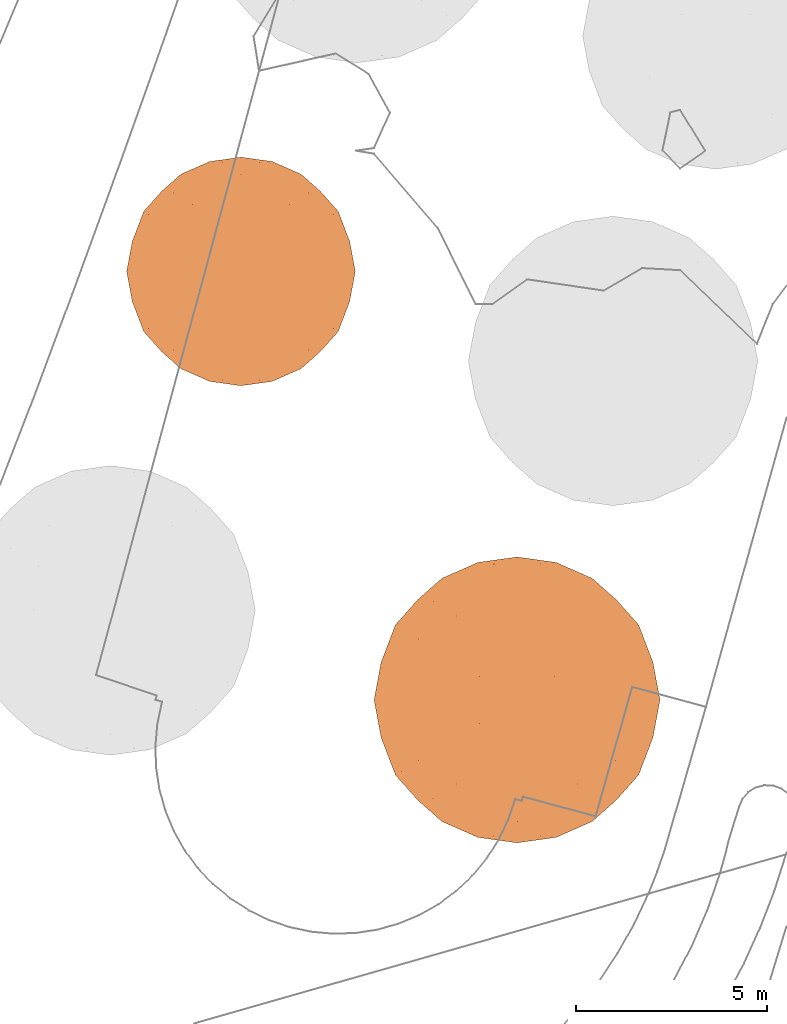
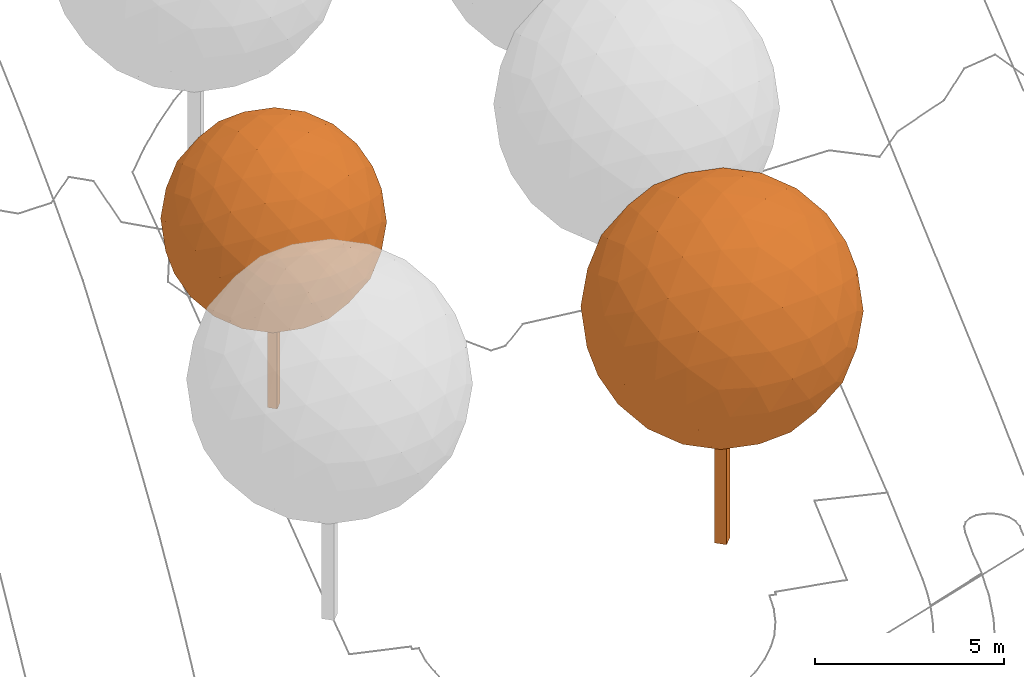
# Not in any storey, part 260 of 494: 2 proxies.
"""IFC2X3 model written with IfcOpenShell, lengths in metres."""

from ifc_helpers import new_model, si_unit, frame, origin_with_axes, place, context, subcontext, project, faceted_brep, element, save


model = new_model("IFC2X3")

# Units and contexts
model_context = context("Model", 3, precision=1e-05, world=origin_with_axes())
body_context = subcontext(model_context, "Body", "Model", "MODEL_VIEW")
ifc_project = project(units=[si_unit("AREAUNIT", "SQUARE_METRE"), si_unit("LENGTHUNIT", "METRE")], contexts=[model_context])

# Proxies
proxy_1_placement = place(None, frame((20.2007320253, 338.0227328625, 538.8693610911), z_axis=(0.0, 0.0, 1.0), x_axis=(1.0, 0.0, 0.0)))
element("IfcBuildingElementProxy", 1, at=proxy_1_placement, Name="Tree TR1 CD59", ObjectType="NOTDEFINED", context=body_context, shape_type="Brep", body=[
    faceted_brep([(0.0, 0.1900657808, 0.0), (0.1900657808, 0.0, 0.0), (0.0, -0.1900657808, 0.0), (-0.1900657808, 0.0, 0.0), (0.0, -0.1900657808, 5.971092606), (0.1900657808, 0.0, 5.971092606), (0.0, 0.1900657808, 5.971092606), (-0.1900657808, 0.0, 5.971092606)], [[[0, 1, 2]], [[2, 3, 0]], [[4, 5, 6]], [[6, 7, 4]], [[4, 7, 2]], [[2, 7, 3]], [[7, 6, 3]], [[3, 6, 0]], [[5, 4, 1]], [[1, 4, 2]], [[6, 5, 0]], [[0, 5, 1]]]),
    faceted_brep([(-1.5695945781, 2.539657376, 5.971092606), (-2.0713137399, 2.0959921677, 6.4506371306), (-1.2953943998, 2.5755366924, 6.747011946), (-2.4153576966, 1.4927731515, 6.8936771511), (-1.7548600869, 2.0546259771, 7.240921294), (-0.9225845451, 2.4153576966, 7.4638657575), (-2.5755366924, 0.7759193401, 7.2664870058), (-2.0546259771, 1.269828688, 7.7259526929), (-2.539657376, 0.0, 7.5406871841), (-2.0959921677, 0.4795445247, 8.0424063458), (-1.4927731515, 0.9225845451, 8.3864503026), (-1.269828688, 1.7548600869, 8.025718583), (-0.4795445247, 2.0713137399, 8.0670847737), (-0.7759193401, 1.2953943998, 8.5466292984), (0.0, 1.5695945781, 8.510749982), (-0.8158498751, 2.8719115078, 5.971092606), (-0.4850313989, 2.8394232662, 6.755889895), (0.0, 2.985546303, 5.971092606), (0.0, 2.539657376, 7.5406871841), (0.4795445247, 2.0713137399, 8.0670847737), (0.9225845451, 2.4153576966, 7.4638657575), (0.4850313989, 2.8394232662, 6.755889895), (0.8158498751, 2.8719115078, 5.971092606), (1.2953943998, 2.5755366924, 6.747011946), (1.5695945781, 2.539657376, 5.971092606), (-1.2953943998, 2.5755366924, 5.1951732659), (-0.4850313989, 2.8394232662, 5.1862953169), (-0.9225845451, 2.4153576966, 4.4783194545), (0.4850313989, 2.8394232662, 5.1862953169), (1.2953943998, 2.5755366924, 5.1951732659), (0.9225845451, 2.4153576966, 4.4783194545), (0.0, 2.539657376, 4.4014980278), (-0.4795445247, 2.0713137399, 3.8751004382), (0.4795445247, 2.0713137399, 3.8751004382), (0.0, 1.5695945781, 3.43143523), (-2.0713137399, 2.0959921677, 5.4915480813), (-1.7548600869, 2.0546259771, 4.701263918), (-2.4153576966, 1.4927731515, 5.0485080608), (-1.269828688, 1.7548600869, 3.9164666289), (-0.7759193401, 1.2953943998, 3.3955559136), (-1.4927731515, 0.9225845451, 3.5557349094), (-2.0546259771, 1.269828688, 4.216232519), (-2.5755366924, 0.7759193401, 4.6756982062), (-2.0959921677, 0.4795445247, 3.8997788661), (-2.539657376, 0.0, 4.4014980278), (-2.539657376, 1.5695945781, 5.971092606), (-2.8394232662, 0.7847972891, 5.486061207), (-2.8719115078, 0.0, 5.1552427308), (-2.985546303, 0.0, 5.971092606), (-2.8394232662, 0.7847972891, 6.4561240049), (-2.8719115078, 0.0, 6.7869424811), (2.0713137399, 2.0959921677, 6.4506371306), (1.7548600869, 2.0546259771, 7.240921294), (2.4153576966, 1.4927731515, 6.8936771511), (1.269828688, 1.7548600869, 8.025718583), (0.7759193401, 1.2953943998, 8.5466292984), (1.4927731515, 0.9225845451, 8.3864503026), (2.0546259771, 1.269828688, 7.7259526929), (2.5755366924, 0.7759193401, 7.2664870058), (2.0959921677, 0.4795445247, 8.0424063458), (2.539657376, 0.0, 7.5406871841), (0.0, 0.8158498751, 8.8430041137), (-0.7847972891, 0.4850313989, 8.8105158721), (0.0, 0.0, 8.9566389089), (-1.5695945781, 0.0, 8.510749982), (-2.0959921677, -0.4795445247, 8.0424063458), (-1.4927731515, -0.9225845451, 8.3864503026), (-0.7847972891, -0.4850313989, 8.8105158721), (0.0, -0.8158498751, 8.8430041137), (-0.7759193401, -1.2953943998, 8.5466292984), (0.0, -1.5695945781, 8.510749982), (-2.5755366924, -0.7759193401, 7.2664870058), (-2.8394232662, -0.7847972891, 6.4561240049), (-2.4153576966, -1.4927731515, 6.8936771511), (-2.8394232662, -0.7847972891, 5.486061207), (-2.5755366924, -0.7759193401, 4.6756982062), (-2.4153576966, -1.4927731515, 5.0485080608), (-2.539657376, -1.5695945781, 5.971092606), (-2.0713137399, -2.0959921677, 6.4506371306), (-2.0713137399, -2.0959921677, 5.4915480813), (-1.5695945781, -2.539657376, 5.971092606), (-2.0959921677, -0.4795445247, 3.8997788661), (-1.5695945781, 0.0, 3.43143523), (-1.4927731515, -0.9225845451, 3.5557349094), (-0.7847972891, 0.4850313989, 3.1316693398), (0.0, 0.8158498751, 3.0991810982), (0.0, 0.0, 2.985546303), (-0.7847972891, -0.4850313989, 3.1316693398), (-0.7759193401, -1.2953943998, 3.3955559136), (0.0, -0.8158498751, 3.0991810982), (0.0, -1.5695945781, 3.43143523), (0.7759193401, 1.2953943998, 3.3955559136), (1.269828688, 1.7548600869, 3.9164666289), (1.4927731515, 0.9225845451, 3.5557349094), (1.7548600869, 2.0546259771, 4.701263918), (2.0713137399, 2.0959921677, 5.4915480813), (2.4153576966, 1.4927731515, 5.0485080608), (2.0546259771, 1.269828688, 4.216232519), (2.0959921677, 0.4795445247, 3.8997788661), (2.5755366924, 0.7759193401, 4.6756982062), (2.539657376, 0.0, 4.4014980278), (1.5695945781, -2.539657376, 5.971092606), (2.0713137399, -2.0959921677, 6.4506371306), (1.2953943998, -2.5755366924, 6.747011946), (2.4153576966, -1.4927731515, 6.8936771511), (1.7548600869, -2.0546259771, 7.240921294), (0.9225845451, -2.4153576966, 7.4638657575), (2.5755366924, -0.7759193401, 7.2664870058), (2.0546259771, -1.269828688, 7.7259526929), (2.0959921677, -0.4795445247, 8.0424063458), (1.4927731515, -0.9225845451, 8.3864503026), (1.269828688, -1.7548600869, 8.025718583), (0.4795445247, -2.0713137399, 8.0670847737), (0.7759193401, -1.2953943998, 8.5466292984), (0.8158498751, -2.8719115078, 5.971092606), (0.4850313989, -2.8394232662, 6.755889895), (0.0, -2.985546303, 5.971092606), (0.0, -2.539657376, 7.5406871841), (-0.4795445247, -2.0713137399, 8.0670847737), (-0.9225845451, -2.4153576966, 7.4638657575), (-0.4850313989, -2.8394232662, 6.755889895), (-0.8158498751, -2.8719115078, 5.971092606), (-1.2953943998, -2.5755366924, 6.747011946), (1.2953943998, -2.5755366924, 5.1951732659), (0.4850313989, -2.8394232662, 5.1862953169), (0.9225845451, -2.4153576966, 4.4783194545), (-0.4850313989, -2.8394232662, 5.1862953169), (-1.2953943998, -2.5755366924, 5.1951732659), (-0.9225845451, -2.4153576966, 4.4783194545), (0.0, -2.539657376, 4.4014980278), (0.4795445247, -2.0713137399, 3.8751004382), (-0.4795445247, -2.0713137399, 3.8751004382), (2.0713137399, -2.0959921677, 5.4915480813), (1.7548600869, -2.0546259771, 4.701263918), (2.4153576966, -1.4927731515, 5.0485080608), (1.269828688, -1.7548600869, 3.9164666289), (0.7759193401, -1.2953943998, 3.3955559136), (1.4927731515, -0.9225845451, 3.5557349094), (2.0546259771, -1.269828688, 4.216232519), (2.5755366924, -0.7759193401, 4.6756982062), (2.0959921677, -0.4795445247, 3.8997788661), (2.539657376, -1.5695945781, 5.971092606), (2.8394232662, -0.7847972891, 5.486061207), (2.8719115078, 0.0, 5.1552427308), (2.985546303, 0.0, 5.971092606), (2.8394232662, -0.7847972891, 6.4561240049), (2.8719115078, 0.0, 6.7869424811), (0.7847972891, -0.4850313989, 8.8105158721), (1.5695945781, 0.0, 8.510749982), (0.7847972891, 0.4850313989, 8.8105158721), (-1.7548600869, -2.0546259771, 7.240921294), (-1.269828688, -1.7548600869, 8.025718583), (-2.0546259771, -1.269828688, 7.7259526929), (-1.269828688, -1.7548600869, 3.9164666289), (-1.7548600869, -2.0546259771, 4.701263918), (-2.0546259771, -1.269828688, 4.216232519), (1.5695945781, 0.0, 3.43143523), (0.7847972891, -0.4850313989, 3.1316693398), (0.7847972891, 0.4850313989, 3.1316693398), (2.8394232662, 0.7847972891, 6.4561240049), (2.8394232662, 0.7847972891, 5.486061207), (2.539657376, 1.5695945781, 5.971092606)], [[[0, 1, 2]], [[1, 3, 4]], [[2, 4, 5]], [[1, 4, 2]], [[3, 6, 7]], [[6, 8, 9]], [[7, 9, 10]], [[6, 9, 7]], [[5, 11, 12]], [[11, 10, 13]], [[12, 13, 14]], [[11, 13, 12]], [[3, 7, 4]], [[7, 10, 11]], [[4, 11, 5]], [[7, 11, 4]], [[0, 2, 15]], [[2, 5, 16]], [[15, 16, 17]], [[2, 16, 15]], [[5, 12, 18]], [[12, 14, 19]], [[18, 19, 20]], [[12, 19, 18]], [[17, 21, 22]], [[21, 20, 23]], [[22, 23, 24]], [[21, 23, 22]], [[5, 18, 16]], [[18, 20, 21]], [[16, 21, 17]], [[18, 21, 16]], [[0, 15, 25]], [[15, 17, 26]], [[25, 26, 27]], [[15, 26, 25]], [[17, 22, 28]], [[22, 24, 29]], [[28, 29, 30]], [[22, 29, 28]], [[27, 31, 32]], [[31, 30, 33]], [[32, 33, 34]], [[31, 33, 32]], [[17, 28, 26]], [[28, 30, 31]], [[26, 31, 27]], [[28, 31, 26]], [[0, 25, 35]], [[25, 27, 36]], [[35, 36, 37]], [[25, 36, 35]], [[27, 32, 38]], [[32, 34, 39]], [[38, 39, 40]], [[32, 39, 38]], [[37, 41, 42]], [[41, 40, 43]], [[42, 43, 44]], [[41, 43, 42]], [[27, 38, 36]], [[38, 40, 41]], [[36, 41, 37]], [[38, 41, 36]], [[0, 35, 1]], [[35, 37, 45]], [[1, 45, 3]], [[35, 45, 1]], [[37, 42, 46]], [[42, 44, 47]], [[46, 47, 48]], [[42, 47, 46]], [[3, 49, 6]], [[49, 48, 50]], [[6, 50, 8]], [[49, 50, 6]], [[37, 46, 45]], [[46, 48, 49]], [[45, 49, 3]], [[46, 49, 45]], [[24, 23, 51]], [[23, 20, 52]], [[51, 52, 53]], [[23, 52, 51]], [[20, 19, 54]], [[19, 14, 55]], [[54, 55, 56]], [[19, 55, 54]], [[53, 57, 58]], [[57, 56, 59]], [[58, 59, 60]], [[57, 59, 58]], [[20, 54, 52]], [[54, 56, 57]], [[52, 57, 53]], [[54, 57, 52]], [[14, 13, 61]], [[13, 10, 62]], [[61, 62, 63]], [[13, 62, 61]], [[10, 9, 64]], [[9, 8, 65]], [[64, 65, 66]], [[9, 65, 64]], [[63, 67, 68]], [[67, 66, 69]], [[68, 69, 70]], [[67, 69, 68]], [[10, 64, 62]], [[64, 66, 67]], [[62, 67, 63]], [[64, 67, 62]], [[8, 50, 71]], [[50, 48, 72]], [[71, 72, 73]], [[50, 72, 71]], [[48, 47, 74]], [[47, 44, 75]], [[74, 75, 76]], [[47, 75, 74]], [[73, 77, 78]], [[77, 76, 79]], [[78, 79, 80]], [[77, 79, 78]], [[48, 74, 72]], [[74, 76, 77]], [[72, 77, 73]], [[74, 77, 72]], [[44, 43, 81]], [[43, 40, 82]], [[81, 82, 83]], [[43, 82, 81]], [[40, 39, 84]], [[39, 34, 85]], [[84, 85, 86]], [[39, 85, 84]], [[83, 87, 88]], [[87, 86, 89]], [[88, 89, 90]], [[87, 89, 88]], [[40, 84, 82]], [[84, 86, 87]], [[82, 87, 83]], [[84, 87, 82]], [[34, 33, 91]], [[33, 30, 92]], [[91, 92, 93]], [[33, 92, 91]], [[30, 29, 94]], [[29, 24, 95]], [[94, 95, 96]], [[29, 95, 94]], [[93, 97, 98]], [[97, 96, 99]], [[98, 99, 100]], [[97, 99, 98]], [[30, 94, 92]], [[94, 96, 97]], [[92, 97, 93]], [[94, 97, 92]], [[101, 102, 103]], [[102, 104, 105]], [[103, 105, 106]], [[102, 105, 103]], [[104, 107, 108]], [[107, 60, 109]], [[108, 109, 110]], [[107, 109, 108]], [[106, 111, 112]], [[111, 110, 113]], [[112, 113, 70]], [[111, 113, 112]], [[104, 108, 105]], [[108, 110, 111]], [[105, 111, 106]], [[108, 111, 105]], [[101, 103, 114]], [[103, 106, 115]], [[114, 115, 116]], [[103, 115, 114]], [[106, 112, 117]], [[112, 70, 118]], [[117, 118, 119]], [[112, 118, 117]], [[116, 120, 121]], [[120, 119, 122]], [[121, 122, 80]], [[120, 122, 121]], [[106, 117, 115]], [[117, 119, 120]], [[115, 120, 116]], [[117, 120, 115]], [[101, 114, 123]], [[114, 116, 124]], [[123, 124, 125]], [[114, 124, 123]], [[116, 121, 126]], [[121, 80, 127]], [[126, 127, 128]], [[121, 127, 126]], [[125, 129, 130]], [[129, 128, 131]], [[130, 131, 90]], [[129, 131, 130]], [[116, 126, 124]], [[126, 128, 129]], [[124, 129, 125]], [[126, 129, 124]], [[101, 123, 132]], [[123, 125, 133]], [[132, 133, 134]], [[123, 133, 132]], [[125, 130, 135]], [[130, 90, 136]], [[135, 136, 137]], [[130, 136, 135]], [[134, 138, 139]], [[138, 137, 140]], [[139, 140, 100]], [[138, 140, 139]], [[125, 135, 133]], [[135, 137, 138]], [[133, 138, 134]], [[135, 138, 133]], [[101, 132, 102]], [[132, 134, 141]], [[102, 141, 104]], [[132, 141, 102]], [[134, 139, 142]], [[139, 100, 143]], [[142, 143, 144]], [[139, 143, 142]], [[104, 145, 107]], [[145, 144, 146]], [[107, 146, 60]], [[145, 146, 107]], [[134, 142, 141]], [[142, 144, 145]], [[141, 145, 104]], [[142, 145, 141]], [[70, 113, 68]], [[113, 110, 147]], [[68, 147, 63]], [[113, 147, 68]], [[110, 109, 148]], [[109, 60, 59]], [[148, 59, 56]], [[109, 59, 148]], [[63, 149, 61]], [[149, 56, 55]], [[61, 55, 14]], [[149, 55, 61]], [[110, 148, 147]], [[148, 56, 149]], [[147, 149, 63]], [[148, 149, 147]], [[80, 122, 78]], [[122, 119, 150]], [[78, 150, 73]], [[122, 150, 78]], [[119, 118, 151]], [[118, 70, 69]], [[151, 69, 66]], [[118, 69, 151]], [[73, 152, 71]], [[152, 66, 65]], [[71, 65, 8]], [[152, 65, 71]], [[119, 151, 150]], [[151, 66, 152]], [[150, 152, 73]], [[151, 152, 150]], [[90, 131, 88]], [[131, 128, 153]], [[88, 153, 83]], [[131, 153, 88]], [[128, 127, 154]], [[127, 80, 79]], [[154, 79, 76]], [[127, 79, 154]], [[83, 155, 81]], [[155, 76, 75]], [[81, 75, 44]], [[155, 75, 81]], [[128, 154, 153]], [[154, 76, 155]], [[153, 155, 83]], [[154, 155, 153]], [[100, 140, 98]], [[140, 137, 156]], [[98, 156, 93]], [[140, 156, 98]], [[137, 136, 157]], [[136, 90, 89]], [[157, 89, 86]], [[136, 89, 157]], [[93, 158, 91]], [[158, 86, 85]], [[91, 85, 34]], [[158, 85, 91]], [[137, 157, 156]], [[157, 86, 158]], [[156, 158, 93]], [[157, 158, 156]], [[60, 146, 58]], [[146, 144, 159]], [[58, 159, 53]], [[146, 159, 58]], [[144, 143, 160]], [[143, 100, 99]], [[160, 99, 96]], [[143, 99, 160]], [[53, 161, 51]], [[161, 96, 95]], [[51, 95, 24]], [[161, 95, 51]], [[144, 160, 159]], [[160, 96, 161]], [[159, 161, 53]], [[160, 161, 159]]]),
])
proxy_2_placement = place(None, frame((27.4107320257, 326.8327332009, 538.7850088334), z_axis=(0.0, 0.0, 1.0), x_axis=(1.0, 0.0, 0.0)))
element("IfcBuildingElementProxy", 2, at=proxy_2_placement, Name="Tree TR2 CD74", ObjectType="NOTDEFINED", context=body_context, shape_type="Brep", body=[
    faceted_brep([(0.0, 0.2376711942, 0.0), (0.2376711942, 0.0, 0.0), (0.0, -0.2376711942, 0.0), (-0.2376711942, 0.0, 0.0), (0.0, -0.2376711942, 7.4666607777), (0.2376711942, 0.0, 7.4666607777), (0.0, 0.2376711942, 7.4666607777), (-0.2376711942, 0.0, 7.4666607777)], [[[0, 1, 2]], [[2, 3, 0]], [[4, 5, 6]], [[6, 7, 4]], [[4, 7, 2]], [[2, 7, 3]], [[7, 6, 3]], [[3, 6, 0]], [[5, 4, 1]], [[1, 4, 2]], [[6, 5, 0]], [[0, 5, 1]]]),
    faceted_brep([(-1.9627279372, 3.1757605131, 7.4666607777), (-2.5901117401, 2.6209713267, 8.0663159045), (-1.6198493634, 3.2206264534, 8.4369231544), (-3.0203277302, 1.8666651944, 8.6203233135), (-2.1943965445, 2.5692442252, 9.0545410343), (-1.1536625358, 3.0203277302, 9.3333259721), (-3.2206264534, 0.9702623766, 9.0865101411), (-2.5692442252, 1.5878802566, 9.6610573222), (-3.1757605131, 0.0, 9.429388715), (-2.6209713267, 0.5996551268, 10.0567725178), (-1.8666651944, 1.1536625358, 10.4869885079), (-1.5878802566, 2.1943965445, 10.0359050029), (-0.5996551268, 2.5901117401, 10.0876321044), (-0.9702623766, 1.6198493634, 10.6872872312), (0.0, 1.9627279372, 10.6424212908), (-1.0201942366, 3.5912337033, 7.4666607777), (-0.6065162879, 3.5506081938, 8.4480247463), (0.0, 3.7333303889, 7.4666607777), (0.0, 3.1757605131, 9.429388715), (0.5996551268, 2.5901117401, 10.0876321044), (1.1536625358, 3.0203277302, 9.3333259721), (0.6065162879, 3.5506081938, 8.4480247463), (1.0201942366, 3.5912337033, 7.4666607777), (1.6198493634, 3.2206264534, 8.4369231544), (1.9627279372, 3.1757605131, 7.4666607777), (-1.6198493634, 3.2206264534, 6.4963984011), (-0.6065162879, 3.5506081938, 6.4852968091), (-1.1536625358, 3.0203277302, 5.5999955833), (0.6065162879, 3.5506081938, 6.4852968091), (1.6198493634, 3.2206264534, 6.4963984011), (1.1536625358, 3.0203277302, 5.5999955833), (0.0, 3.1757605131, 5.5039328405), (-0.5996551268, 2.5901117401, 4.845689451), (0.5996551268, 2.5901117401, 4.845689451), (0.0, 1.9627279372, 4.2909002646), (-2.5901117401, 2.6209713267, 6.8670056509), (-2.1943965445, 2.5692442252, 5.8787805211), (-3.0203277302, 1.8666651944, 6.3129982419), (-1.5878802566, 2.1943965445, 4.8974165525), (-0.9702623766, 1.6198493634, 4.2460343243), (-1.8666651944, 1.1536625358, 4.4463330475), (-2.5692442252, 1.5878802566, 5.2722642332), (-3.2206264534, 0.9702623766, 5.8468114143), (-2.6209713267, 0.5996551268, 4.8765490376), (-3.1757605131, 0.0, 5.5039328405), (-3.1757605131, 1.9627279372, 7.4666607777), (-3.5506081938, 0.9813639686, 6.8601444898), (-3.5912337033, 0.0, 6.4464665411), (-3.7333303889, 0.0, 7.4666607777), (-3.5506081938, 0.9813639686, 8.0731770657), (-3.5912337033, 0.0, 8.4868550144), (2.5901117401, 2.6209713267, 8.0663159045), (2.1943965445, 2.5692442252, 9.0545410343), (3.0203277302, 1.8666651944, 8.6203233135), (1.5878802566, 2.1943965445, 10.0359050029), (0.9702623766, 1.6198493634, 10.6872872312), (1.8666651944, 1.1536625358, 10.4869885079), (2.5692442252, 1.5878802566, 9.6610573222), (3.2206264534, 0.9702623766, 9.0865101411), (2.6209713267, 0.5996551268, 10.0567725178), (3.1757605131, 0.0, 9.429388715), (0.0, 1.0201942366, 11.057894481), (-0.9813639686, 0.6065162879, 11.0172689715), (0.0, 0.0, 11.1999911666), (-1.9627279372, 0.0, 10.6424212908), (-2.6209713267, -0.5996551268, 10.0567725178), (-1.8666651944, -1.1536625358, 10.4869885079), (-0.9813639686, -0.6065162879, 11.0172689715), (0.0, -1.0201942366, 11.057894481), (-0.9702623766, -1.6198493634, 10.6872872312), (0.0, -1.9627279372, 10.6424212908), (-3.2206264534, -0.9702623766, 9.0865101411), (-3.5506081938, -0.9813639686, 8.0731770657), (-3.0203277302, -1.8666651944, 8.6203233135), (-3.5506081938, -0.9813639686, 6.8601444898), (-3.2206264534, -0.9702623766, 5.8468114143), (-3.0203277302, -1.8666651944, 6.3129982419), (-3.1757605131, -1.9627279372, 7.4666607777), (-2.5901117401, -2.6209713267, 8.0663159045), (-2.5901117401, -2.6209713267, 6.8670056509), (-1.9627279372, -3.1757605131, 7.4666607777), (-2.6209713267, -0.5996551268, 4.8765490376), (-1.9627279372, 0.0, 4.2909002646), (-1.8666651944, -1.1536625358, 4.4463330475), (-0.9813639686, 0.6065162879, 3.9160525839), (0.0, 1.0201942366, 3.8754270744), (0.0, 0.0, 3.7333303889), (-0.9813639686, -0.6065162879, 3.9160525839), (-0.9702623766, -1.6198493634, 4.2460343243), (0.0, -1.0201942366, 3.8754270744), (0.0, -1.9627279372, 4.2909002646), (0.9702623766, 1.6198493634, 4.2460343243), (1.5878802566, 2.1943965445, 4.8974165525), (1.8666651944, 1.1536625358, 4.4463330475), (2.1943965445, 2.5692442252, 5.8787805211), (2.5901117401, 2.6209713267, 6.8670056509), (3.0203277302, 1.8666651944, 6.3129982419), (2.5692442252, 1.5878802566, 5.2722642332), (2.6209713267, 0.5996551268, 4.8765490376), (3.2206264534, 0.9702623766, 5.8468114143), (3.1757605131, 0.0, 5.5039328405), (1.9627279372, -3.1757605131, 7.4666607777), (2.5901117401, -2.6209713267, 8.0663159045), (1.6198493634, -3.2206264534, 8.4369231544), (3.0203277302, -1.8666651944, 8.6203233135), (2.1943965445, -2.5692442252, 9.0545410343), (1.1536625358, -3.0203277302, 9.3333259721), (3.2206264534, -0.9702623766, 9.0865101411), (2.5692442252, -1.5878802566, 9.6610573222), (2.6209713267, -0.5996551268, 10.0567725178), (1.8666651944, -1.1536625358, 10.4869885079), (1.5878802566, -2.1943965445, 10.0359050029), (0.5996551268, -2.5901117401, 10.0876321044), (0.9702623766, -1.6198493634, 10.6872872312), (1.0201942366, -3.5912337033, 7.4666607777), (0.6065162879, -3.5506081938, 8.4480247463), (0.0, -3.7333303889, 7.4666607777), (0.0, -3.1757605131, 9.429388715), (-0.5996551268, -2.5901117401, 10.0876321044), (-1.1536625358, -3.0203277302, 9.3333259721), (-0.6065162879, -3.5506081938, 8.4480247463), (-1.0201942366, -3.5912337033, 7.4666607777), (-1.6198493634, -3.2206264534, 8.4369231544), (1.6198493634, -3.2206264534, 6.4963984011), (0.6065162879, -3.5506081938, 6.4852968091), (1.1536625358, -3.0203277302, 5.5999955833), (-0.6065162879, -3.5506081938, 6.4852968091), (-1.6198493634, -3.2206264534, 6.4963984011), (-1.1536625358, -3.0203277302, 5.5999955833), (0.0, -3.1757605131, 5.5039328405), (0.5996551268, -2.5901117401, 4.845689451), (-0.5996551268, -2.5901117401, 4.845689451), (2.5901117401, -2.6209713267, 6.8670056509), (2.1943965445, -2.5692442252, 5.8787805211), (3.0203277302, -1.8666651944, 6.3129982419), (1.5878802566, -2.1943965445, 4.8974165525), (0.9702623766, -1.6198493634, 4.2460343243), (1.8666651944, -1.1536625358, 4.4463330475), (2.5692442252, -1.5878802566, 5.2722642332), (3.2206264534, -0.9702623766, 5.8468114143), (2.6209713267, -0.5996551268, 4.8765490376), (3.1757605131, -1.9627279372, 7.4666607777), (3.5506081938, -0.9813639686, 6.8601444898), (3.5912337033, 0.0, 6.4464665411), (3.7333303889, 0.0, 7.4666607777), (3.5506081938, -0.9813639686, 8.0731770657), (3.5912337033, 0.0, 8.4868550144), (0.9813639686, -0.6065162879, 11.0172689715), (1.9627279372, 0.0, 10.6424212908), (0.9813639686, 0.6065162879, 11.0172689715), (-2.1943965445, -2.5692442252, 9.0545410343), (-1.5878802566, -2.1943965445, 10.0359050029), (-2.5692442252, -1.5878802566, 9.6610573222), (-1.5878802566, -2.1943965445, 4.8974165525), (-2.1943965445, -2.5692442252, 5.8787805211), (-2.5692442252, -1.5878802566, 5.2722642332), (1.9627279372, 0.0, 4.2909002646), (0.9813639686, -0.6065162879, 3.9160525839), (0.9813639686, 0.6065162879, 3.9160525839), (3.5506081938, 0.9813639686, 8.0731770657), (3.5506081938, 0.9813639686, 6.8601444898), (3.1757605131, 1.9627279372, 7.4666607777)], [[[0, 1, 2]], [[1, 3, 4]], [[2, 4, 5]], [[1, 4, 2]], [[3, 6, 7]], [[6, 8, 9]], [[7, 9, 10]], [[6, 9, 7]], [[5, 11, 12]], [[11, 10, 13]], [[12, 13, 14]], [[11, 13, 12]], [[3, 7, 4]], [[7, 10, 11]], [[4, 11, 5]], [[7, 11, 4]], [[0, 2, 15]], [[2, 5, 16]], [[15, 16, 17]], [[2, 16, 15]], [[5, 12, 18]], [[12, 14, 19]], [[18, 19, 20]], [[12, 19, 18]], [[17, 21, 22]], [[21, 20, 23]], [[22, 23, 24]], [[21, 23, 22]], [[5, 18, 16]], [[18, 20, 21]], [[16, 21, 17]], [[18, 21, 16]], [[0, 15, 25]], [[15, 17, 26]], [[25, 26, 27]], [[15, 26, 25]], [[17, 22, 28]], [[22, 24, 29]], [[28, 29, 30]], [[22, 29, 28]], [[27, 31, 32]], [[31, 30, 33]], [[32, 33, 34]], [[31, 33, 32]], [[17, 28, 26]], [[28, 30, 31]], [[26, 31, 27]], [[28, 31, 26]], [[0, 25, 35]], [[25, 27, 36]], [[35, 36, 37]], [[25, 36, 35]], [[27, 32, 38]], [[32, 34, 39]], [[38, 39, 40]], [[32, 39, 38]], [[37, 41, 42]], [[41, 40, 43]], [[42, 43, 44]], [[41, 43, 42]], [[27, 38, 36]], [[38, 40, 41]], [[36, 41, 37]], [[38, 41, 36]], [[0, 35, 1]], [[35, 37, 45]], [[1, 45, 3]], [[35, 45, 1]], [[37, 42, 46]], [[42, 44, 47]], [[46, 47, 48]], [[42, 47, 46]], [[3, 49, 6]], [[49, 48, 50]], [[6, 50, 8]], [[49, 50, 6]], [[37, 46, 45]], [[46, 48, 49]], [[45, 49, 3]], [[46, 49, 45]], [[24, 23, 51]], [[23, 20, 52]], [[51, 52, 53]], [[23, 52, 51]], [[20, 19, 54]], [[19, 14, 55]], [[54, 55, 56]], [[19, 55, 54]], [[53, 57, 58]], [[57, 56, 59]], [[58, 59, 60]], [[57, 59, 58]], [[20, 54, 52]], [[54, 56, 57]], [[52, 57, 53]], [[54, 57, 52]], [[14, 13, 61]], [[13, 10, 62]], [[61, 62, 63]], [[13, 62, 61]], [[10, 9, 64]], [[9, 8, 65]], [[64, 65, 66]], [[9, 65, 64]], [[63, 67, 68]], [[67, 66, 69]], [[68, 69, 70]], [[67, 69, 68]], [[10, 64, 62]], [[64, 66, 67]], [[62, 67, 63]], [[64, 67, 62]], [[8, 50, 71]], [[50, 48, 72]], [[71, 72, 73]], [[50, 72, 71]], [[48, 47, 74]], [[47, 44, 75]], [[74, 75, 76]], [[47, 75, 74]], [[73, 77, 78]], [[77, 76, 79]], [[78, 79, 80]], [[77, 79, 78]], [[48, 74, 72]], [[74, 76, 77]], [[72, 77, 73]], [[74, 77, 72]], [[44, 43, 81]], [[43, 40, 82]], [[81, 82, 83]], [[43, 82, 81]], [[40, 39, 84]], [[39, 34, 85]], [[84, 85, 86]], [[39, 85, 84]], [[83, 87, 88]], [[87, 86, 89]], [[88, 89, 90]], [[87, 89, 88]], [[40, 84, 82]], [[84, 86, 87]], [[82, 87, 83]], [[84, 87, 82]], [[34, 33, 91]], [[33, 30, 92]], [[91, 92, 93]], [[33, 92, 91]], [[30, 29, 94]], [[29, 24, 95]], [[94, 95, 96]], [[29, 95, 94]], [[93, 97, 98]], [[97, 96, 99]], [[98, 99, 100]], [[97, 99, 98]], [[30, 94, 92]], [[94, 96, 97]], [[92, 97, 93]], [[94, 97, 92]], [[101, 102, 103]], [[102, 104, 105]], [[103, 105, 106]], [[102, 105, 103]], [[104, 107, 108]], [[107, 60, 109]], [[108, 109, 110]], [[107, 109, 108]], [[106, 111, 112]], [[111, 110, 113]], [[112, 113, 70]], [[111, 113, 112]], [[104, 108, 105]], [[108, 110, 111]], [[105, 111, 106]], [[108, 111, 105]], [[101, 103, 114]], [[103, 106, 115]], [[114, 115, 116]], [[103, 115, 114]], [[106, 112, 117]], [[112, 70, 118]], [[117, 118, 119]], [[112, 118, 117]], [[116, 120, 121]], [[120, 119, 122]], [[121, 122, 80]], [[120, 122, 121]], [[106, 117, 115]], [[117, 119, 120]], [[115, 120, 116]], [[117, 120, 115]], [[101, 114, 123]], [[114, 116, 124]], [[123, 124, 125]], [[114, 124, 123]], [[116, 121, 126]], [[121, 80, 127]], [[126, 127, 128]], [[121, 127, 126]], [[125, 129, 130]], [[129, 128, 131]], [[130, 131, 90]], [[129, 131, 130]], [[116, 126, 124]], [[126, 128, 129]], [[124, 129, 125]], [[126, 129, 124]], [[101, 123, 132]], [[123, 125, 133]], [[132, 133, 134]], [[123, 133, 132]], [[125, 130, 135]], [[130, 90, 136]], [[135, 136, 137]], [[130, 136, 135]], [[134, 138, 139]], [[138, 137, 140]], [[139, 140, 100]], [[138, 140, 139]], [[125, 135, 133]], [[135, 137, 138]], [[133, 138, 134]], [[135, 138, 133]], [[101, 132, 102]], [[132, 134, 141]], [[102, 141, 104]], [[132, 141, 102]], [[134, 139, 142]], [[139, 100, 143]], [[142, 143, 144]], [[139, 143, 142]], [[104, 145, 107]], [[145, 144, 146]], [[107, 146, 60]], [[145, 146, 107]], [[134, 142, 141]], [[142, 144, 145]], [[141, 145, 104]], [[142, 145, 141]], [[70, 113, 68]], [[113, 110, 147]], [[68, 147, 63]], [[113, 147, 68]], [[110, 109, 148]], [[109, 60, 59]], [[148, 59, 56]], [[109, 59, 148]], [[63, 149, 61]], [[149, 56, 55]], [[61, 55, 14]], [[149, 55, 61]], [[110, 148, 147]], [[148, 56, 149]], [[147, 149, 63]], [[148, 149, 147]], [[80, 122, 78]], [[122, 119, 150]], [[78, 150, 73]], [[122, 150, 78]], [[119, 118, 151]], [[118, 70, 69]], [[151, 69, 66]], [[118, 69, 151]], [[73, 152, 71]], [[152, 66, 65]], [[71, 65, 8]], [[152, 65, 71]], [[119, 151, 150]], [[151, 66, 152]], [[150, 152, 73]], [[151, 152, 150]], [[90, 131, 88]], [[131, 128, 153]], [[88, 153, 83]], [[131, 153, 88]], [[128, 127, 154]], [[127, 80, 79]], [[154, 79, 76]], [[127, 79, 154]], [[83, 155, 81]], [[155, 76, 75]], [[81, 75, 44]], [[155, 75, 81]], [[128, 154, 153]], [[154, 76, 155]], [[153, 155, 83]], [[154, 155, 153]], [[100, 140, 98]], [[140, 137, 156]], [[98, 156, 93]], [[140, 156, 98]], [[137, 136, 157]], [[136, 90, 89]], [[157, 89, 86]], [[136, 89, 157]], [[93, 158, 91]], [[158, 86, 85]], [[91, 85, 34]], [[158, 85, 91]], [[137, 157, 156]], [[157, 86, 158]], [[156, 158, 93]], [[157, 158, 156]], [[60, 146, 58]], [[146, 144, 159]], [[58, 159, 53]], [[146, 159, 58]], [[144, 143, 160]], [[143, 100, 99]], [[160, 99, 96]], [[143, 99, 160]], [[53, 161, 51]], [[161, 96, 95]], [[51, 95, 24]], [[161, 95, 51]], [[144, 160, 159]], [[160, 96, 161]], [[159, 161, 53]], [[160, 161, 159]]]),
])

save(model, "model.ifc")
